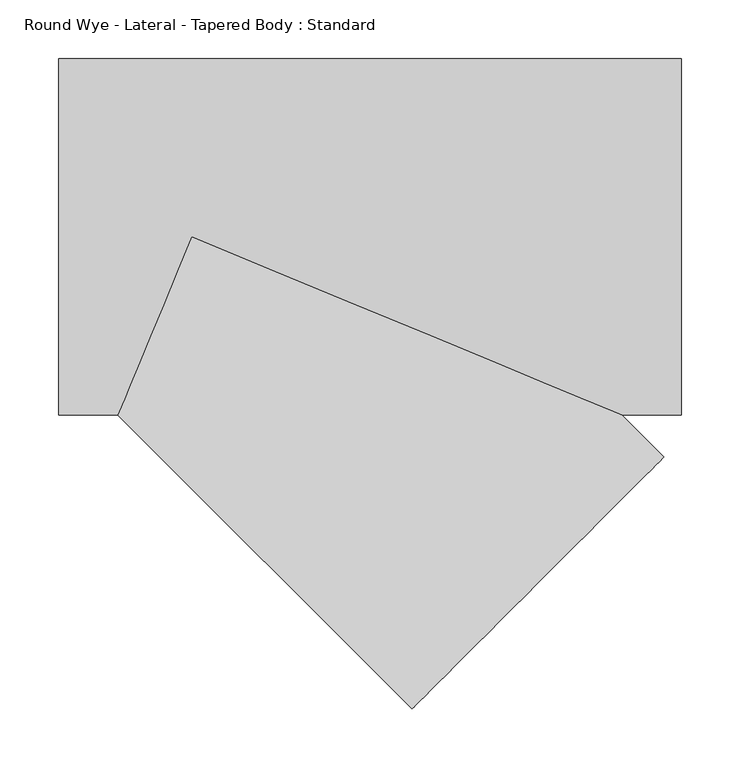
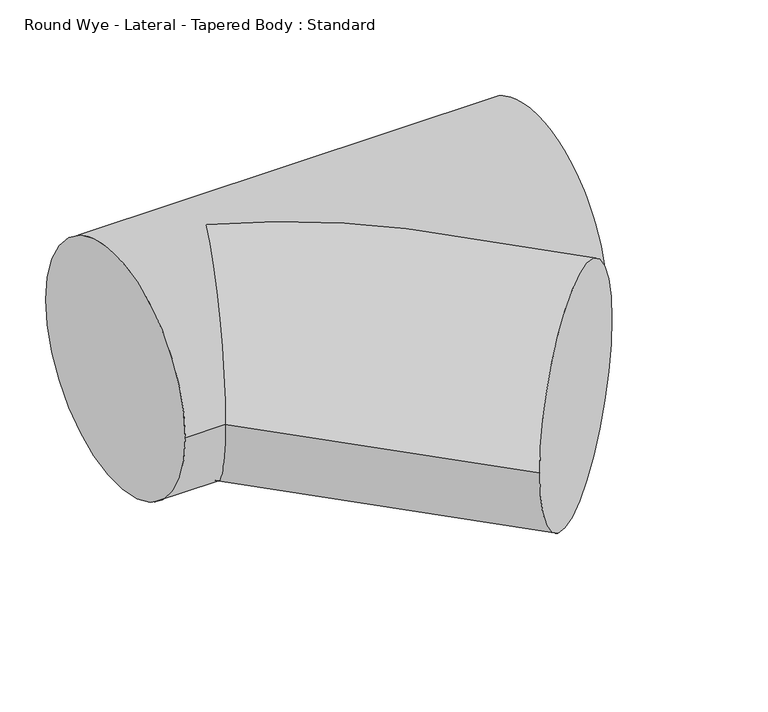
"""IFC4 building model written with IfcOpenShell, lengths in millimetres: duct fitting geometry, Round Wye - Lateral - Tapered Body : Standard."""

import ifcopenshell
import ifcopenshell.guid

model = None  # the IFC model being written
_history = None  # IfcOwnerHistory: only IFC2X3 demands one
_inside = {}  # id of a spatial element -> (the spatial element, [elements in it])
_under = {}  # id of a project, library or spatial element -> (it, [spatial elements below it])
_declared = {}  # id of a project -> (the project, [libraries it declares])
_typed = {}  # id of a type object -> (the type object, [elements of that type])
_made_of = {}  # id of a material, layer set ... -> (it, [elements and type objects made of it])


def new_model(schema):
    """Start an empty IFC model of exactly this schema.

    Asked for "IFC4X3", IfcOpenShell would pick the latest addendum, in which some entities
    have other attributes; the version numbers below select the first issue.
    IFC2X3 requires an IfcOwnerHistory on every rooted entity: one is made here for all.
    """
    global model, _history
    if schema == "IFC4X3":
        model = ifcopenshell.file(schema_version=(4, 3, 0, 0))
    else:
        model = ifcopenshell.file(schema=schema)
    _inside.clear()
    _under.clear()
    _declared.clear()
    _typed.clear()
    _made_of.clear()
    _history = None
    if model.schema == "IFC2X3":
        org = make("IfcOrganization", Name="unknown")
        user = make(
            "IfcPersonAndOrganization",
            ThePerson=make("IfcPerson", FamilyName="unknown"),
            TheOrganization=org,
        )
        app = make(
            "IfcApplication",
            ApplicationDeveloper=org,
            Version="unknown",
            ApplicationFullName="unknown",
            ApplicationIdentifier="unknown",
        )
        _history = make(
            "IfcOwnerHistory",
            OwningUser=user,
            OwningApplication=app,
            ChangeAction="ADDED",
            CreationDate=0,
        )
    return model


def make(cls, **values):
    """One entity of the class cls with the attributes given. An attribute that is None is left unset."""
    return model.create_entity(
        cls, **{name: value for name, value in values.items() if value is not None}
    )


def rooted(cls, **values):
    """An entity with a GlobalId (a new one), such as an element, a storey or a relation."""
    return make(cls, GlobalId=ifcopenshell.guid.new(), OwnerHistory=_history, **values)


def si_unit(unit_type, name, prefix=None):
    """IfcSIUnit, for example si_unit("LENGTHUNIT", "METRE", prefix="MILLI")."""
    return make("IfcSIUnit", UnitType=unit_type, Prefix=prefix, Name=name)


def assignment(units):
    """IfcUnitAssignment: the units of a project."""
    return None if units is None else make("IfcUnitAssignment", Units=units)


def point(xyz):
    """IfcCartesianPoint."""
    return None if xyz is None else make("IfcCartesianPoint", Coordinates=xyz)


def direction(xyz):
    """IfcDirection."""
    return None if xyz is None else make("IfcDirection", DirectionRatios=xyz)


def frame(location, z_axis=None, x_axis=None):
    """IfcAxis2Placement3D, a coordinate frame: its origin and axes. An axis left out is left unset."""
    return make(
        "IfcAxis2Placement3D",
        Location=point(location),
        Axis=direction(z_axis),
        RefDirection=direction(x_axis),
    )


def origin():
    """The frame at (0, 0, 0) with its axes left unset."""
    return frame((0.0, 0.0, 0.0))


def place(relative_to, where):
    """IfcLocalPlacement: puts the frame where relative to a parent placement (None: the world)."""
    return make(
        "IfcLocalPlacement", PlacementRelTo=relative_to, RelativePlacement=where
    )


def context(
    kind, dimensions, precision=None, world=None, true_north=None, identifier=None
):
    """IfcGeometricRepresentationContext, for example the 3D "Model" context."""
    return make(
        "IfcGeometricRepresentationContext",
        ContextIdentifier=identifier,
        ContextType=kind,
        CoordinateSpaceDimension=dimensions,
        Precision=precision,
        WorldCoordinateSystem=world,
        TrueNorth=true_north,
    )


def project(units=None, contexts=None):
    """IfcProject with its units and contexts."""
    return rooted(
        "IfcProject",
        Name="project",
        RepresentationContexts=contexts,
        UnitsInContext=assignment(units),
    )


def spatial(cls, under=None, at=None, **own):
    """A site, building, storey or space (cls), placed at a placement, below another one or the project."""
    s = rooted(cls, ObjectPlacement=at, **own)
    if under is not None:
        _under.setdefault(under.id(), (under, []))[1].append(s)
    return s


def circle_curve(where, radius):
    """IfcCircle in the frame where."""
    return make("IfcCircle", Position=where, Radius=radius)


def ellipse_curve(where, semi_axis1, semi_axis2):
    """IfcEllipse in the frame where."""
    return make(
        "IfcEllipse", Position=where, SemiAxis1=semi_axis1, SemiAxis2=semi_axis2
    )


def shape(context_of_items, identifier, shape_type, items):
    """IfcShapeRepresentation: the items that make up one representation, for example the "Body"."""
    return make(
        "IfcShapeRepresentation",
        ContextOfItems=context_of_items,
        RepresentationIdentifier=identifier,
        RepresentationType=shape_type,
        Items=items,
    )


def source(mapping_origin, context_of_items, identifier, shape_type, items):
    """IfcRepresentationMap: a shape defined once, which mapped items show again and again."""
    return make(
        "IfcRepresentationMap",
        MappingOrigin=mapping_origin,
        MappedRepresentation=shape(context_of_items, identifier, shape_type, items),
    )


def transform(
    local_origin,
    x_axis=None,
    y_axis=None,
    z_axis=None,
    scale=None,
    scale2=None,
    scale3=None,
    uniform=True,
):
    """IfcCartesianTransformationOperator3D, or its non-uniform kind. x_axis, y_axis, z_axis: its Axis1, 2, 3."""
    if uniform:
        return make(
            "IfcCartesianTransformationOperator3D",
            Axis1=direction(x_axis),
            Axis2=direction(y_axis),
            LocalOrigin=point(local_origin),
            Scale=scale,
            Axis3=direction(z_axis),
        )
    return make(
        "IfcCartesianTransformationOperator3DnonUniform",
        Axis1=direction(x_axis),
        Axis2=direction(y_axis),
        LocalOrigin=point(local_origin),
        Scale=scale,
        Axis3=direction(z_axis),
        Scale2=scale2,
        Scale3=scale3,
    )


def mapped(mapping_source, mapping_target):
    """IfcMappedItem: shows the shape of a source again, moved by a transform."""
    return make(
        "IfcMappedItem", MappingSource=mapping_source, MappingTarget=mapping_target
    )


def made_of(thing, what):
    """Note that an element or type object is made of a material, layer set ...; save() writes the relation."""
    if what is not None:
        _made_of.setdefault(what.id(), (what, []))[1].append(thing)
    return thing


def element(
    cls,
    number,
    at=None,
    inside=None,
    cuts=None,
    type_object=None,
    material=None,
    context=None,
    identifier="Body",
    shape_type=None,
    held_by="IfcProductDefinitionShape",
    body=None,
    shapes=None,
    **own,
):
    """One element of the class cls, such as IfcWall. Its Tag is "e" and its number.

    at: its placement. inside: the storey or other place that contains it. cuts: it is an
    opening in that element (IfcRelVoidsElement). A single representation is given by context,
    identifier, shape_type and body (its items); several are given by shapes. held_by: the class
    of the entity that holds the representations. save() writes the other relations.
    """
    e = rooted(cls, Tag="e%d" % number, ObjectPlacement=at, **own)
    if body is not None:
        shapes = [shape(context, identifier, shape_type, body)]
    if shapes is not None:
        e.Representation = make(held_by, Representations=shapes)
    if inside is not None:
        _inside.setdefault(inside.id(), (inside, []))[1].append(e)
    if cuts is not None:
        rooted(
            "IfcRelVoidsElement", RelatingBuildingElement=cuts, RelatedOpeningElement=e
        )
    if type_object is not None:
        _typed.setdefault(type_object.id(), (type_object, []))[1].append(e)
    return made_of(e, material)


def aggregate(whole, parts):
    """IfcRelAggregates: a whole, such as a stair, and the parts it consists of."""
    return rooted("IfcRelAggregates", RelatingObject=whole, RelatedObjects=parts)


def save(model, path):
    """Write the relations noted so far, then the file.

    IfcRelAggregates (storeys below a building ...), IfcRelContainedInSpatialStructure (elements
    in a storey), IfcRelDefinesByType, IfcRelAssociatesMaterial and IfcRelDeclares: one each for
    every whole, place, type object, material and project.
    """
    for whole, parts in _under.values():
        aggregate(whole, parts)
    for where, things in _inside.values():
        rooted(
            "IfcRelContainedInSpatialStructure",
            RelatedElements=things,
            RelatingStructure=where,
        )
    for kind, things in _typed.values():
        rooted("IfcRelDefinesByType", RelatedObjects=things, RelatingType=kind)
    for what, things in _made_of.values():
        rooted("IfcRelAssociatesMaterial", RelatedObjects=things, RelatingMaterial=what)
    for by, libraries in _declared.values():
        rooted("IfcRelDeclares", RelatingContext=by, RelatedDefinitions=libraries)
    model.write(path)


def plane_surface(at):
    """IfcPlane: the flat surface through the origin of the frame at, square to its z axis."""
    return make("IfcPlane", Position=at)


def cylinder_surface(at, radius):
    """IfcCylindricalSurface: all points at the distance radius from the z axis of the frame at."""
    return make("IfcCylindricalSurface", Position=at, Radius=radius)


def advanced_brep(points, edges, surfaces, faces):
    """IfcAdvancedBrep: a solid bounded by faces that lie on surfaces and meet in shared edges.

    An edge is (start, end): straight between two places in points (the first is 0);
    or (start, end, curve); or (start, end, curve, False) where it runs against its curve.
    A face is (place in surfaces, loops), or (place, loops, False) where it looks against
    its surface's normal. A loop lists edges by number (the first is 1), with a minus sign
    where the edge is run from its end to its start. The first loop is the outer one.
    """
    corners = [point(p) for p in points]
    vertices = [make("IfcVertexPoint", VertexGeometry=c) for c in corners]
    made = []
    for start, end, *more in edges:
        made.append(
            make(
                "IfcEdgeCurve",
                EdgeStart=vertices[start],
                EdgeEnd=vertices[end],
                EdgeGeometry=more[0] if more else make("IfcPolyline", Points=[corners[start], corners[end]]),
                SameSense=more[1] if len(more) > 1 else True,
            )
        )
    hull = []
    for where, loops, *sense in faces:
        bounds = []
        for j, loop in enumerate(loops):
            ring = [make("IfcOrientedEdge", EdgeElement=made[abs(k) - 1], Orientation=k > 0) for k in loop]
            bounds.append(
                make(
                    "IfcFaceOuterBound" if j == 0 else "IfcFaceBound",
                    Bound=make("IfcEdgeLoop", EdgeList=ring),
                    Orientation=True,
                )
            )
        hull.append(make("IfcAdvancedFace", Bounds=bounds, FaceSurface=surfaces[where], SameSense=sense[0] if sense else True))
    return make("IfcAdvancedBrep", Outer=make("IfcClosedShell", CfsFaces=hull))


def round_wye_lateral_tapered_body_standard_42fe97ee(model_context):
    return source(origin(), model_context, "Body", "AdvancedBrep", [
        advanced_brep(
        [(418.7261469, -152.4, 0.0), (418.7261469, 152.4, 0.0), (367.9261469, -152.4, 0.0), (0.0, 0.0, -152.4), (-63.1261469, -152.4, 0.0), (-113.9261469, -152.4, 0.0), (-113.9261469, 152.4, 0.0), (0.0, 0.0, 152.4), (403.8471714, -188.3210245, 0.0), (188.3210245, -403.8471714, 0.0)],
        [
            (0, 1, circle_curve(frame((418.7261469, 0.0, 0.0), z_axis=(1.0, 0.0, 0.0), x_axis=(0.0, 0.0, -1.0)), 152.4)),
            (1, 0, circle_curve(frame((418.7261469, 0.0, 0.0), z_axis=(1.0, 0.0, 0.0), x_axis=(0.0, 0.0, 1.0)), 152.4)),
            (0, 2),
            (2, 3, ellipse_curve(frame((0.0, 0.0, 0.0), z_axis=(0.3826834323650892, 0.9238795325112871, 0.0), x_axis=(0.9238795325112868, -0.3826834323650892, 0.0)), 398.2403917, 152.4)),
            (3, 4, ellipse_curve(frame((0.0, 0.0, 0.0), z_axis=(-0.9238795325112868, 0.38268343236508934, 0.0), x_axis=(0.38268343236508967, 0.9238795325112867, 0.0)), 164.9565713, 152.4)),
            (4, 5),
            (5, 6, circle_curve(frame((-113.9261469, 0.0, 0.0), z_axis=(1.0, 0.0, 0.0), x_axis=(0.0, 0.0, -1.0)), 152.4)),
            (6, 1),
            (6, 5, circle_curve(frame((-113.9261469, 0.0, 0.0), z_axis=(1.0, 0.0, 0.0), x_axis=(0.0, 0.0, 1.0)), 152.4)),
            (4, 7, ellipse_curve(frame((0.0, 0.0, 0.0), z_axis=(-0.9238795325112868, 0.38268343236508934, 0.0), x_axis=(0.38268343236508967, 0.9238795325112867, 0.0)), 164.9565713, 152.4)),
            (7, 2, ellipse_curve(frame((0.0, 0.0, 0.0), z_axis=(0.3826834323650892, 0.9238795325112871, 0.0), x_axis=(0.9238795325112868, -0.3826834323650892, 0.0)), 398.2403917, 152.4)),
            (8, 9, circle_curve(frame((296.0840979, -296.0840979, 0.0), z_axis=(0.7071067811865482, -0.707106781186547, 0.0), x_axis=(-0.707106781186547, -0.7071067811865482, 0.0)), 152.4)),
            (9, 8, circle_curve(frame((296.0840979, -296.0840979, 0.0), z_axis=(0.7071067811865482, -0.707106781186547, 0.0), x_axis=(-0.707106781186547, -0.7071067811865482, 0.0)), 152.4)),
            (8, 2),
            (4, 9),
        ],
        [
            plane_surface(frame((418.7261469, 0.0, 0.0), z_axis=(1.0, 0.0, 0.0), x_axis=(0.0, 0.0, -1.0))),
            cylinder_surface(frame((-113.9261469, 0.0, 0.0), z_axis=(1.0, 0.0, 0.0), x_axis=(0.0, 0.0, -1.0)), 152.4),
            cylinder_surface(frame((-113.9261469, 0.0, 0.0), z_axis=(1.0, 0.0, 0.0), x_axis=(0.0, 0.0, 1.0)), 152.4),
            plane_surface(frame((296.0840979, -296.0840979, 0.0), z_axis=(0.7071067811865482, -0.707106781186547, 0.0), x_axis=(0.0, 0.0, 1.0))),
            cylinder_surface(frame((296.0840979, -296.0840979, 0.0), z_axis=(0.7071067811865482, -0.707106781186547, 0.0), x_axis=(-0.707106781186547, -0.7071067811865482, 0.0)), 152.4),
            plane_surface(frame((-113.9261469, 0.0, 0.0), z_axis=(-1.0, 0.0, 0.0), x_axis=(0.0, 0.0, -1.0))),
        ],
        [
            (0, [[1, 2]]),
            (1, [[-1, 3, 4, 5, 6, 7, 8]]),
            (2, [[-2, -8, 9, -6, 10, 11, -3]]),
            (3, [[12, 13]]),
            (4, [[-12, 14, -11, -10, 15]]),
            (4, [[-13, -15, -5, -4, -14]]),
            (5, [[-9, -7]]),
        ],
    ),
    ])


if __name__ == "__main__":
    model = new_model("IFC4")
    model_context = context("Model", 3, world=origin())
    ifc_project = project(units=[si_unit("LENGTHUNIT", "METRE", prefix="MILLI")], contexts=[model_context])
    site = spatial("IfcSite", under=ifc_project)
    building = spatial("IfcBuilding", under=site)
    placement = place(None, origin())
    round_wye_lateral_tapered_body_standard_shape = round_wye_lateral_tapered_body_standard_42fe97ee(model_context)
    element("IfcDuctFitting", 1, ObjectType="Round Wye - Lateral - Tapered Body : Standard", at=placement, inside=building, context=model_context, shape_type="MappedRepresentation", body=[
        mapped(round_wye_lateral_tapered_body_standard_shape, transform((0.0, 0.0, 0.0), x_axis=(1.0, 0.0, 0.0), y_axis=(0.0, 1.0, 0.0), z_axis=(0.0, 0.0, 1.0))),
    ])
    save(model, "model.ifc")
